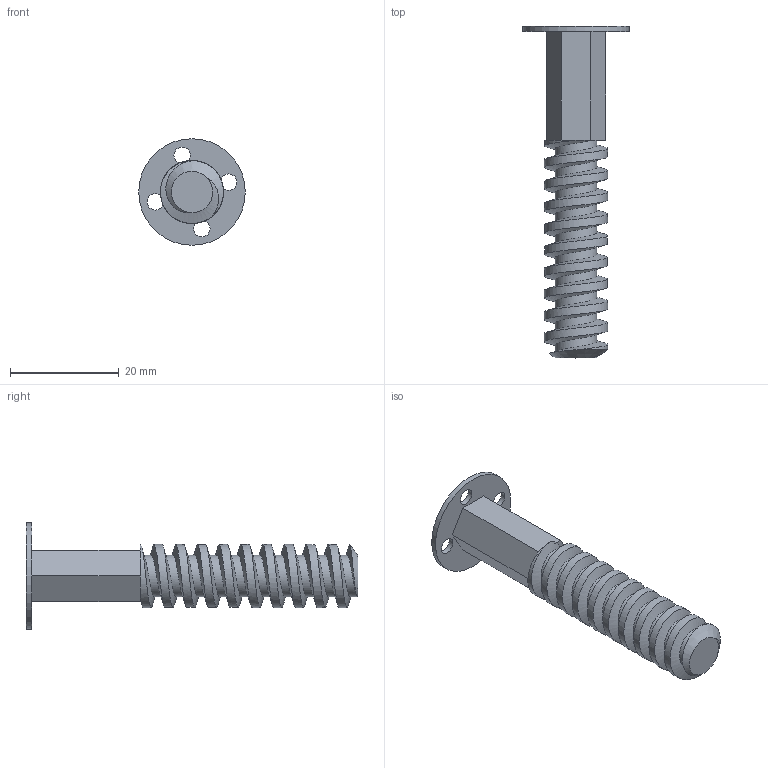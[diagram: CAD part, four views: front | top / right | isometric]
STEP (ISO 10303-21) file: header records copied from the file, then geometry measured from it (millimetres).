
FILE_DESCRIPTION(/* description */ ('STEP AP242 Edition 2','CAx-IF Rec.Pracs.---Representation and Presentation of Product Manufacturing Information (PMI)---4.0---2014-10-13','CAx-IF Rec.Pracs.---3D Tessellated Geometry---0.4---2014-09-14','2;1','CAx-IF Rec.Pracs.---User Defined Attributes---1.5---2016-08-15'),/* implementation_level */ '2;1');
FILE_NAME(/* name */ 'Assembly 1 - screw',/* time_stamp */ '2026-08-25T12:54:11Z',/* author */ (''),/* organization */ (''),/* preprocessor_version */ 'ST-DEVELOPER v20',/* originating_system */ 'ONSHAPE BY PTC INC, 1.219',/* authorisation */ ' ');
FILE_SCHEMA (('AP242_MANAGED_MODEL_BASED_3D_ENGINEERING_MIM_LF { 1 0 10303 442 3 1 4 }'));
Length unit declared in the file: metre
Products named in the file (1): screw
Bounding box: 19.58 x 61 x 19.58 mm (x, y, z)
Volume: 4589 mm3; surface area: 3389.1 mm2
Topology: 1 solids, 1 shells, 23 faces, 53 edges, 34 vertices
Faces by surface type: plane 12, cylinder 8, bspline 2, cone 1
Full cylindrical faces by diameter (mm): 3 x4, 7 x1, 19.577 x1
Entity records: 1781 total; most frequent: CARTESIAN_POINT 1258, DIRECTION 98, ORIENTED_EDGE 94, EDGE_CURVE 47, EDGE_LOOP 39, FACE_BOUND 39, AXIS2_PLACEMENT_3D 39, VERTEX_POINT 34
